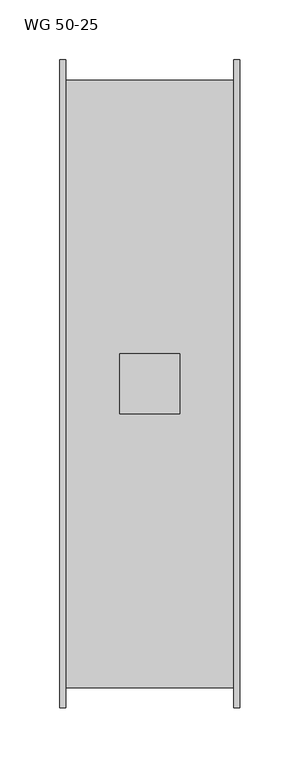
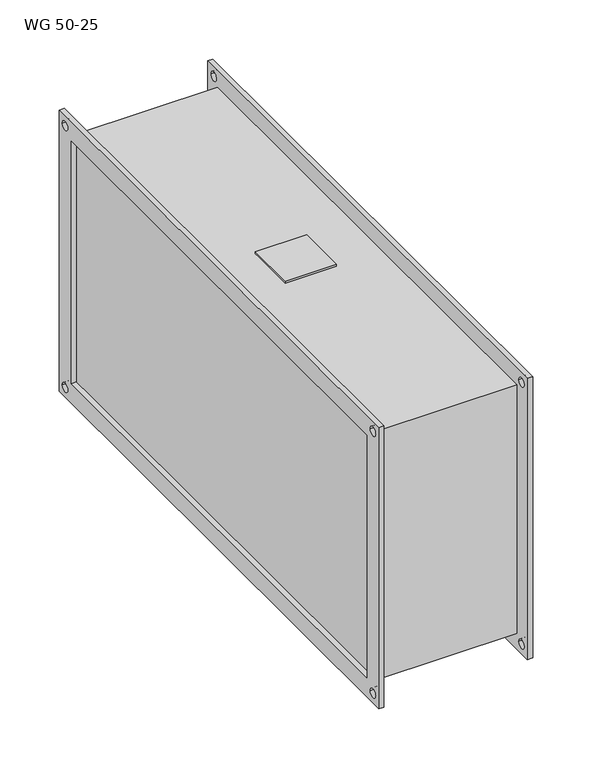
"""IFC4 building model written with IfcOpenShell, lengths in millimetres: damper geometry, KORF_Вставка_Гибкая_WG : WG 50-25."""

from ifc_helpers import new_model, si_unit, point, frame, frame_2d, origin, place, context, project, spatial, polyline, circle_curve, trimmed, segment, composite_curve, outline, extrude, source, transform, mapped, element, save


def wg_50_25_0bfe564b(model_context):
    return source(origin(), model_context, "Body", "SweptSolid", [
        extrude(outline(polyline([(50.0, -25.0), (50.0, 25.0), (100.0, 25.0), (100.0, -25.0), (50.0, -25.0)])), frame((0.0, 0.0, 128.0), z_axis=(0.0, 0.0, 1.0), x_axis=(1.0, 0.0, 0.0)), (0.0, 0.0, 1.0), 2.0),
        extrude(outline(polyline([(-270.0, 145.0), (270.0, 145.0), (270.0, -145.0), (-270.0, -145.0), (-270.0, 145.0)]), holes=[polyline([(-250.0, 125.0), (-250.0, -125.0), (250.0, -125.0), (250.0, 125.0), (-250.0, 125.0)]), composite_curve([segment(trimmed(circle_curve(frame_2d((260.0, 135.0)), 4.5), [point((255.5, 135.0))], [point((264.5, 135.0))], True, "CARTESIAN"), True, "CONTINUOUS"), segment(trimmed(circle_curve(frame_2d((260.0, 135.0)), 4.5), [point((264.5, 135.0))], [point((255.5, 135.0))], True, "CARTESIAN"), True, "CONTINUOUS")], self_intersect=False), composite_curve([segment(trimmed(circle_curve(frame_2d((-260.0, 135.0)), 4.5), [point((-264.5, 135.0))], [point((-255.5, 135.0))], True, "CARTESIAN"), True, "CONTINUOUS"), segment(trimmed(circle_curve(frame_2d((-260.0, 135.0)), 4.5), [point((-255.5, 135.0))], [point((-264.5, 135.0))], True, "CARTESIAN"), True, "CONTINUOUS")], self_intersect=False), composite_curve([segment(trimmed(circle_curve(frame_2d((-260.0, -135.0)), 4.5), [point((-264.5, -135.0))], [point((-255.5, -135.0))], True, "CARTESIAN"), True, "CONTINUOUS"), segment(trimmed(circle_curve(frame_2d((-260.0, -135.0)), 4.5), [point((-255.5, -135.0))], [point((-264.5, -135.0))], True, "CARTESIAN"), True, "CONTINUOUS")], self_intersect=False), composite_curve([segment(trimmed(circle_curve(frame_2d((260.0, -135.0)), 4.5), [point((255.5, -135.0))], [point((264.5, -135.0))], True, "CARTESIAN"), True, "CONTINUOUS"), segment(trimmed(circle_curve(frame_2d((260.0, -135.0)), 4.5), [point((264.5, -135.0))], [point((255.5, -135.0))], True, "CARTESIAN"), True, "CONTINUOUS")], self_intersect=False)]), frame((145.0, 0.0, 0.0), z_axis=(1.0, 0.0, 0.0), x_axis=(0.0, 1.0, 0.0)), (0.0, 0.0, 1.0), 5.0),
        extrude(outline(polyline([(-270.0, 145.0), (270.0, 145.0), (270.0, -145.0), (-270.0, -145.0), (-270.0, 145.0)]), holes=[polyline([(-250.0, 125.0), (-250.0, -125.0), (250.0, -125.0), (250.0, 125.0), (-250.0, 125.0)]), composite_curve([segment(trimmed(circle_curve(frame_2d((260.0, 135.0)), 4.5), [point((255.5, 135.0))], [point((264.5, 135.0))], True, "CARTESIAN"), True, "CONTINUOUS"), segment(trimmed(circle_curve(frame_2d((260.0, 135.0)), 4.5), [point((264.5, 135.0))], [point((255.5, 135.0))], True, "CARTESIAN"), True, "CONTINUOUS")], self_intersect=False), composite_curve([segment(trimmed(circle_curve(frame_2d((-260.0, 135.0)), 4.5), [point((-264.5, 135.0))], [point((-255.5, 135.0))], True, "CARTESIAN"), True, "CONTINUOUS"), segment(trimmed(circle_curve(frame_2d((-260.0, 135.0)), 4.5), [point((-255.5, 135.0))], [point((-264.5, 135.0))], True, "CARTESIAN"), True, "CONTINUOUS")], self_intersect=False), composite_curve([segment(trimmed(circle_curve(frame_2d((-260.0, -135.0)), 4.5), [point((-264.5, -135.0))], [point((-255.5, -135.0))], True, "CARTESIAN"), True, "CONTINUOUS"), segment(trimmed(circle_curve(frame_2d((-260.0, -135.0)), 4.5), [point((-255.5, -135.0))], [point((-264.5, -135.0))], True, "CARTESIAN"), True, "CONTINUOUS")], self_intersect=False), composite_curve([segment(trimmed(circle_curve(frame_2d((260.0, -135.0)), 4.5), [point((255.5, -135.0))], [point((264.5, -135.0))], True, "CARTESIAN"), True, "CONTINUOUS"), segment(trimmed(circle_curve(frame_2d((260.0, -135.0)), 4.5), [point((264.5, -135.0))], [point((255.5, -135.0))], True, "CARTESIAN"), True, "CONTINUOUS")], self_intersect=False)]), frame((0.0, 0.0, 0.0), z_axis=(1.0, 0.0, 0.0), x_axis=(0.0, 1.0, 0.0)), (0.0, 0.0, 1.0), 5.0),
        extrude(outline(polyline([(145.0, 253.0), (145.0, -253.0), (5.0, -253.0), (5.0, 253.0), (145.0, 253.0)])), frame((0.0, 0.0, -128.0), z_axis=(0.0, 0.0, 1.0), x_axis=(1.0, 0.0, 0.0)), (0.0, 0.0, 1.0), 256.0),
    ])


if __name__ == "__main__":
    model = new_model("IFC4")
    model_context = context("Model", 3, world=origin())
    ifc_project = project(units=[si_unit("LENGTHUNIT", "METRE", prefix="MILLI")], contexts=[model_context])
    site = spatial("IfcSite", under=ifc_project)
    building = spatial("IfcBuilding", under=site)
    placement = place(None, origin())
    wg_50_25_shape = wg_50_25_0bfe564b(model_context)
    element("IfcDamper", 1, ObjectType="KORF_Вставка_Гибкая_WG : WG 50-25", at=placement, inside=building, context=model_context, shape_type="MappedRepresentation", body=[
        mapped(wg_50_25_shape, transform((0.0, 0.0, 0.0), x_axis=(1.0, 0.0, 0.0), y_axis=(0.0, 1.0, 0.0), z_axis=(0.0, 0.0, 1.0))),
    ])
    save(model, "model.ifc")
